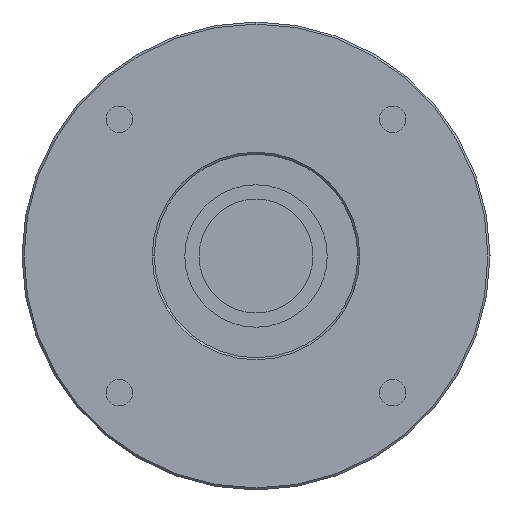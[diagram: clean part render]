
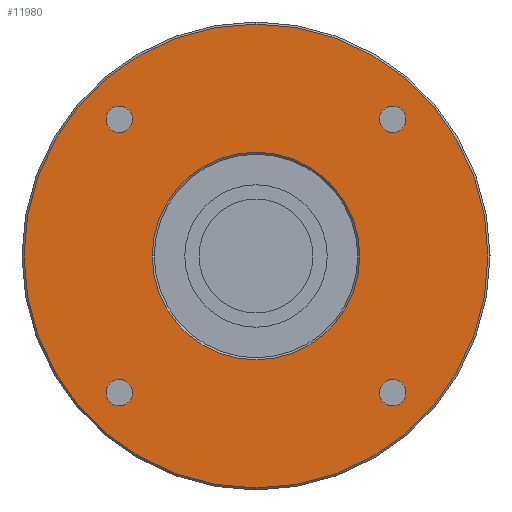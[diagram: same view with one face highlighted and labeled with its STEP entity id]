
A CAD part, left-side view. The second image highlights one B-rep face of the part: STEP entity #11980.
In plain terms, the highlighted planar face has unit normal (-1, 0, 0) as drawn and (0, 0, -1) by its records, which use the part's own axes.
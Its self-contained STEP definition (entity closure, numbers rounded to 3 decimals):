
#8790=CARTESIAN_POINT('',(-30.338,-33.588,-66.4));
#8800=VERTEX_POINT('',#8790);
#8830=CARTESIAN_POINT('',(-33.588,-33.588,-66.4));
#8840=DIRECTION('',(0.,0.,-1.));
#8850=DIRECTION('',(1.,0.,0.));
#8860=AXIS2_PLACEMENT_3D('',#8830,#8840,#8850);
#8870=CIRCLE('',#8860,3.25);
#8880=CARTESIAN_POINT('',(-36.838,-33.588,-66.4));
#8890=VERTEX_POINT('',#8880);
#8900=EDGE_CURVE('',#8890,#8800,#8870,.T.);
#9210=CARTESIAN_POINT('',(36.838,33.588,-66.4));
#9220=VERTEX_POINT('',#9210);
#9250=CARTESIAN_POINT('',(33.588,33.588,-66.4));
#9260=DIRECTION('',(0.,0.,-1.));
#9270=DIRECTION('',(1.,0.,0.));
#9280=AXIS2_PLACEMENT_3D('',#9250,#9260,#9270);
#9290=CIRCLE('',#9280,3.25);
#9300=CARTESIAN_POINT('',(30.338,33.588,-66.4));
#9310=VERTEX_POINT('',#9300);
#9320=EDGE_CURVE('',#9310,#9220,#9290,.T.);
#11050=CARTESIAN_POINT('',(0.,57.,-66.4));
#11060=VERTEX_POINT('',#11050);
#11090=CARTESIAN_POINT('',(0.,0.,
-66.4));
#11100=DIRECTION('',(0.,0.,-1.));
#11110=DIRECTION('',(1.,0.,0.));
#11120=AXIS2_PLACEMENT_3D('',#11090,#11100,#11110);
#11130=CIRCLE('',#11120,57.);
#11140=CARTESIAN_POINT('',(57.,0.,-66.4));
#11150=VERTEX_POINT('',#11140);
#11160=EDGE_CURVE('',#11060,#11150,#11130,.T.);
#11180=CARTESIAN_POINT('',(0.,-57.,-66.4));
#11190=VERTEX_POINT('',#11180);
#11200=EDGE_CURVE('',#11150,#11190,#11130,.T.);
#11320=CARTESIAN_POINT('',(0.,0.,
-66.4));
#11330=DIRECTION('',(0.,0.,-1.));
#11340=DIRECTION('',(1.,0.,0.));
#11350=AXIS2_PLACEMENT_3D('',#11320,#11330,#11340);
#11360=PLANE('',#11350);
#11370=EDGE_CURVE('',#11190,#11060,#11130,.T.);
#11380=ORIENTED_EDGE('',*,*,#11370,.T.);
#11390=ORIENTED_EDGE('',*,*,#11200,.T.);
#11400=ORIENTED_EDGE('',*,*,#11160,.T.);
#11410=EDGE_LOOP('',(#11400,#11390,#11380));
#11420=FACE_OUTER_BOUND('',#11410,.T.);
#11430=CARTESIAN_POINT('',(0.,0.,
-66.4));
#11440=DIRECTION('',(0.,0.,-1.));
#11450=DIRECTION('',(1.,0.,0.));
#11460=AXIS2_PLACEMENT_3D('',#11430,#11440,#11450);
#11470=CIRCLE('',#11460,25.5);
#11480=CARTESIAN_POINT('',(25.5,0.,-66.4));
#11490=VERTEX_POINT('',#11480);
#11500=CARTESIAN_POINT('',(-25.5,0.,-66.4));
#11510=VERTEX_POINT('',#11500);
#11520=EDGE_CURVE('',#11490,#11510,#11470,.T.);
#11530=ORIENTED_EDGE('',*,*,#11520,.F.);
#11540=EDGE_CURVE('',#11510,#11490,#11470,.T.);
#11550=ORIENTED_EDGE('',*,*,#11540,.F.);
#11560=EDGE_LOOP('',(#11550,#11530));
#11570=FACE_BOUND('',#11560,.T.);
#11580=CARTESIAN_POINT('',(33.588,-33.588,-66.4));
#11590=DIRECTION('',(0.,0.,-1.));
#11600=DIRECTION('',(1.,0.,0.));
#11610=AXIS2_PLACEMENT_3D('',#11580,#11590,#11600);
#11620=CIRCLE('',#11610,3.25);
#11630=CARTESIAN_POINT('',(36.838,-33.588,-66.4));
#11640=VERTEX_POINT('',#11630);
#11650=CARTESIAN_POINT('',(30.338,-33.588,-66.4));
#11660=VERTEX_POINT('',#11650);
#11670=EDGE_CURVE('',#11640,#11660,#11620,.T.);
#11680=ORIENTED_EDGE('',*,*,#11670,.F.);
#11690=EDGE_CURVE('',#11660,#11640,#11620,.T.);
#11700=ORIENTED_EDGE('',*,*,#11690,.F.);
#11710=EDGE_LOOP('',(#11700,#11680));
#11720=FACE_BOUND('',#11710,.T.);
#11730=EDGE_CURVE('',#9220,#9310,#9290,.T.);
#11740=ORIENTED_EDGE('',*,*,#11730,.F.);
#11750=ORIENTED_EDGE('',*,*,#9320,.F.);
#11760=EDGE_LOOP('',(#11750,#11740));
#11770=FACE_BOUND('',#11760,.T.);
#11780=CARTESIAN_POINT('',(-33.588,33.588,-66.4));
#11790=DIRECTION('',(0.,0.,-1.));
#11800=DIRECTION('',(1.,0.,0.));
#11810=AXIS2_PLACEMENT_3D('',#11780,#11790,#11800);
#11820=CIRCLE('',#11810,3.25);
#11830=CARTESIAN_POINT('',(-30.338,33.588,-66.4));
#11840=VERTEX_POINT('',#11830);
#11850=CARTESIAN_POINT('',(-36.838,33.588,-66.4));
#11860=VERTEX_POINT('',#11850);
#11870=EDGE_CURVE('',#11840,#11860,#11820,.T.);
#11880=ORIENTED_EDGE('',*,*,#11870,.F.);
#11890=EDGE_CURVE('',#11860,#11840,#11820,.T.);
#11900=ORIENTED_EDGE('',*,*,#11890,.F.);
#11910=EDGE_LOOP('',(#11900,#11880));
#11920=FACE_BOUND('',#11910,.T.);
#11930=EDGE_CURVE('',#8800,#8890,#8870,.T.);
#11940=ORIENTED_EDGE('',*,*,#11930,.F.);
#11950=ORIENTED_EDGE('',*,*,#8900,.F.);
#11960=EDGE_LOOP('',(#11950,#11940));
#11970=FACE_BOUND('',#11960,.T.);
#11980=ADVANCED_FACE('',(#11420,#11570,#11720,#11770,#11920,#11970),
#11360,.T.);
